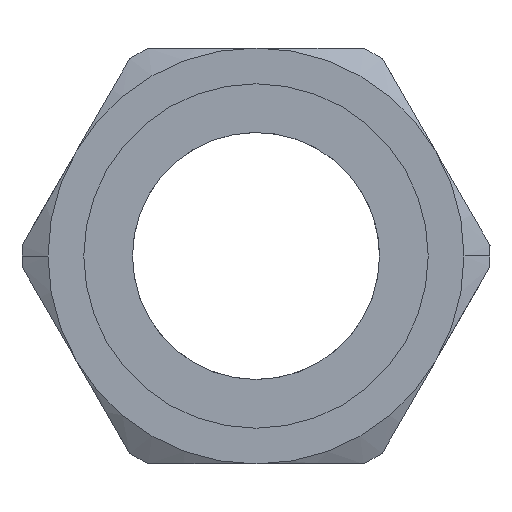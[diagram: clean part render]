
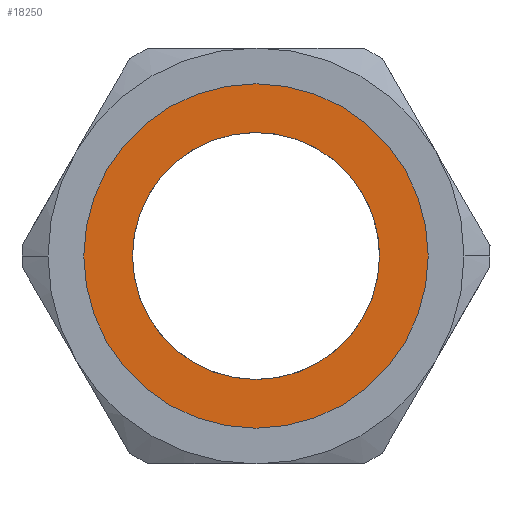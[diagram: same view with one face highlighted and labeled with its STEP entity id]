
A CAD part, front view. The second image highlights one B-rep face of the part: STEP entity #18250.
In plain terms, the highlighted planar face has unit normal (0, -1, 0).
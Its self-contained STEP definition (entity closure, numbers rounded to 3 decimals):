
#16320=CARTESIAN_POINT('',(-13.25,29.,0.));
#16330=VERTEX_POINT('',#16320);
#16360=CARTESIAN_POINT('',(0.,29.,0.));
#16370=DIRECTION('',(0.,-1.,0.));
#16380=DIRECTION('',(1.,0.,0.));
#16390=AXIS2_PLACEMENT_3D('',#16360,#16370,#16380);
#16400=CIRCLE('',#16390,13.25);
#16410=CARTESIAN_POINT('',(13.25,29.,0.));
#16420=VERTEX_POINT('',#16410);
#16430=EDGE_CURVE('',#16330,#16420,#16400,.T.);
#17960=CARTESIAN_POINT('',(9.994,29.,2.807));
#17970=DIRECTION('',(0.,1.,-0.));
#17980=DIRECTION('',(-1.,0.,0.));
#17990=AXIS2_PLACEMENT_3D('',#17960,#17970,#17980);
#18000=PLANE('',#17990);
#18010=EDGE_CURVE('',#16420,#16330,#16400,.T.);
#18020=ORIENTED_EDGE('',*,*,#18010,.T.);
#18030=ORIENTED_EDGE('',*,*,#16430,.T.);
#18040=EDGE_LOOP('',(#18030,#18020));
#18050=FACE_OUTER_BOUND('',#18040,.T.);
#18060=CARTESIAN_POINT('',(0.,29.,0.));
#18070=DIRECTION('',(0.,1.,0.));
#18080=DIRECTION('',(-1.,0.,0.));
#18090=AXIS2_PLACEMENT_3D('',#18060,#18070,#18080);
#18100=CIRCLE('',#18090,9.5);
#18110=CARTESIAN_POINT('',(9.5,29.,0.));
#18120=VERTEX_POINT('',#18110);
#18130=CARTESIAN_POINT('',(-9.5,29.,0.));
#18140=VERTEX_POINT('',#18130);
#18150=EDGE_CURVE('',#18120,#18140,#18100,.T.);
#18160=ORIENTED_EDGE('',*,*,#18150,.T.);
#18170=CARTESIAN_POINT('',(8.043,29.,5.056));
#18180=VERTEX_POINT('',#18170);
#18190=EDGE_CURVE('',#18180,#18120,#18100,.T.);
#18200=ORIENTED_EDGE('',*,*,#18190,.T.);
#18210=EDGE_CURVE('',#18140,#18180,#18100,.T.);
#18220=ORIENTED_EDGE('',*,*,#18210,.T.);
#18230=EDGE_LOOP('',(#18220,#18200,#18160));
#18240=FACE_BOUND('',#18230,.T.);
#18250=ADVANCED_FACE('',(#18050,#18240),#18000,.F.);
